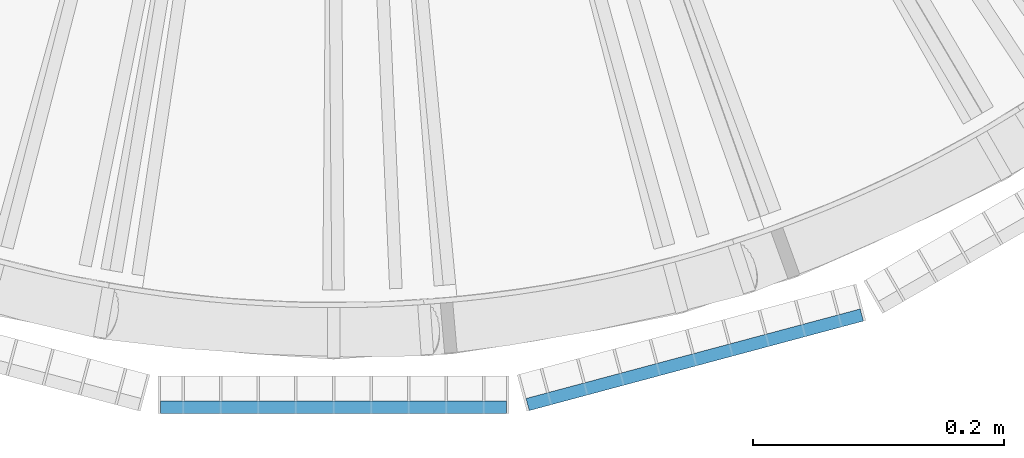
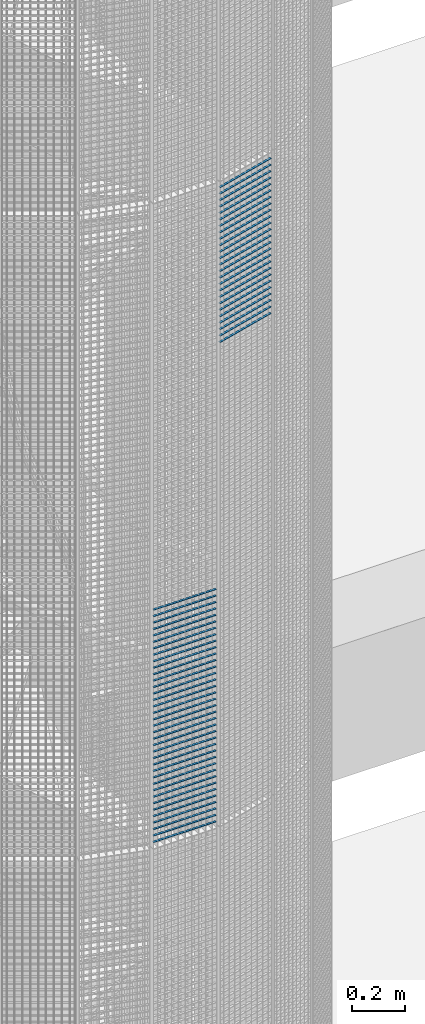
# One storey, part 398 of 1183: 62 beams, 2 elements without a shape of their own.
"""IFC2X3 building model written with IfcOpenShell, lengths in millimetres."""

from ifc_helpers import new_model, si_unit, frame, origin_with_axes, origin_2d_with_axis, place, context, subcontext, project, spatial, rectangle, extrude, material, type_object, element, aggregate, save


model = new_model("IFC2X3")

# Units and contexts
model_context = context("Model", 3, precision=1e-05, world=origin_with_axes())
body_context = subcontext(model_context, "Body", "Model", "MODEL_VIEW")
ifc_project = project(units=[si_unit("LENGTHUNIT", "METRE", prefix="MILLI"), si_unit("AREAUNIT", "SQUARE_METRE"), si_unit("VOLUMEUNIT", "CUBIC_METRE"), si_unit("MASSUNIT", "GRAM", prefix="KILO"), si_unit("TIMEUNIT", "SECOND"), si_unit("PLANEANGLEUNIT", "RADIAN"), si_unit("SOLIDANGLEUNIT", "STERADIAN"), si_unit("THERMODYNAMICTEMPERATUREUNIT", "DEGREE_CELSIUS"), si_unit("LUMINOUSINTENSITYUNIT", "LUMEN")], contexts=[model_context])

# Site, building, storey
site_placement = place(None, origin_with_axes())
site = spatial("IfcSite", under=ifc_project, at=site_placement, Name="Undefined", CompositionType="ELEMENT")
building_placement = place(site_placement, origin_with_axes())
building = spatial("IfcBuilding", under=site, at=building_placement, Name="Undefined", CompositionType="ELEMENT")
storey_placement = place(building_placement, origin_with_axes())
storey = spatial("IfcBuildingStorey", under=building, at=storey_placement, Name="Undefined", CompositionType="ELEMENT", Elevation=0.0)

# Assembly, beams
assembly_1_placement = place(storey_placement, origin_with_axes())
assembly_1 = element("IfcElementAssembly", 1, at=assembly_1_placement, inside=storey, Name="BORDURE", AssemblyPlace="NOTDEFINED", PredefinedType="NOTDEFINED")
ifc_material = material(Name="STEEL/S235JR")
beam_type = type_object("IfcBeamType", Name="PL2*10", PredefinedType="NOTDEFINED")
beam_1_placement = place(assembly_1_placement, frame((21737.9960033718, -1113.47999999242, 12720.0), z_axis=(0.0, -1.0, 0.0), x_axis=(-1.0, 0.0, 0.0)))
beam_1 = element("IfcBeam", 2, at=beam_1_placement, type_object=beam_type, material=ifc_material, Name="ENTRETOISE", context=body_context, shape_type="SweptSolid", body=[
    extrude(rectangle(XDim=2.0, YDim=10.0, at=origin_2d_with_axis()), frame((275.999999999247, 9.09494701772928e-13, 1.53210777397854e-14), z_axis=(-1.0, 0.0, 0.0), x_axis=(0.0, -1.0, 0.0)), (0.0, 0.0, 1.0), 276.0),
])
beam_2_placement = place(assembly_1_placement, frame((21737.9960033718, -1113.47999999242, 12690.0), z_axis=(0.0, -1.0, 0.0), x_axis=(-1.0, 0.0, 0.0)))
beam_2 = element("IfcBeam", 3, at=beam_2_placement, type_object=beam_type, material=ifc_material, Name="ENTRETOISE", context=body_context, shape_type="SweptSolid", body=[
    extrude(rectangle(XDim=2.0, YDim=10.0, at=origin_2d_with_axis()), frame((275.999999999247, 9.09494701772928e-13, 1.53210777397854e-14), z_axis=(-1.0, 0.0, 0.0), x_axis=(0.0, -1.0, 0.0)), (0.0, 0.0, 1.0), 276.0),
])
beam_3_placement = place(assembly_1_placement, frame((21737.9960033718, -1113.47999999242, 12750.0), z_axis=(0.0, -1.0, 0.0), x_axis=(-1.0, 0.0, 0.0)))
beam_3 = element("IfcBeam", 4, at=beam_3_placement, type_object=beam_type, material=ifc_material, Name="ENTRETOISE", context=body_context, shape_type="SweptSolid", body=[
    extrude(rectangle(XDim=2.0, YDim=10.0, at=origin_2d_with_axis()), frame((275.999999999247, 9.09494701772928e-13, 1.53210777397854e-14), z_axis=(-1.0, 0.0, 0.0), x_axis=(0.0, -1.0, 0.0)), (0.0, 0.0, 1.0), 276.0),
])
beam_4_placement = place(assembly_1_placement, frame((21737.9960033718, -1113.47999999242, 12660.0), z_axis=(0.0, -1.0, 0.0), x_axis=(-1.0, 0.0, 0.0)))
beam_4 = element("IfcBeam", 5, at=beam_4_placement, type_object=beam_type, material=ifc_material, Name="ENTRETOISE", context=body_context, shape_type="SweptSolid", body=[
    extrude(rectangle(XDim=2.0, YDim=10.0, at=origin_2d_with_axis()), frame((275.999999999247, 9.09494701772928e-13, 1.53210777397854e-14), z_axis=(-1.0, 0.0, 0.0), x_axis=(0.0, -1.0, 0.0)), (0.0, 0.0, 1.0), 276.0),
])
beam_5_placement = place(assembly_1_placement, frame((21737.9960033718, -1113.47999999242, 12630.0), z_axis=(0.0, -1.0, 0.0), x_axis=(-1.0, 0.0, 0.0)))
beam_5 = element("IfcBeam", 6, at=beam_5_placement, type_object=beam_type, material=ifc_material, Name="ENTRETOISE", context=body_context, shape_type="SweptSolid", body=[
    extrude(rectangle(XDim=2.0, YDim=10.0, at=origin_2d_with_axis()), frame((275.999999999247, 9.09494701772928e-13, 1.53210777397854e-14), z_axis=(-1.0, 0.0, 0.0), x_axis=(0.0, -1.0, 0.0)), (0.0, 0.0, 1.0), 276.0),
])
beam_6_placement = place(assembly_1_placement, frame((21737.9960033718, -1113.47999999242, 12780.0), z_axis=(0.0, -1.0, 0.0), x_axis=(-1.0, 0.0, 0.0)))
beam_6 = element("IfcBeam", 7, at=beam_6_placement, type_object=beam_type, material=ifc_material, Name="ENTRETOISE", context=body_context, shape_type="SweptSolid", body=[
    extrude(rectangle(XDim=2.0, YDim=10.0, at=origin_2d_with_axis()), frame((275.999999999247, 9.09494701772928e-13, 1.53210777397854e-14), z_axis=(-1.0, 0.0, 0.0), x_axis=(0.0, -1.0, 0.0)), (0.0, 0.0, 1.0), 276.0),
])
beam_7_placement = place(assembly_1_placement, frame((21737.9960033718, -1113.47999999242, 12600.0), z_axis=(0.0, -1.0, 0.0), x_axis=(-1.0, 0.0, 0.0)))
beam_7 = element("IfcBeam", 8, at=beam_7_placement, type_object=beam_type, material=ifc_material, Name="ENTRETOISE", context=body_context, shape_type="SweptSolid", body=[
    extrude(rectangle(XDim=2.0, YDim=10.0, at=origin_2d_with_axis()), frame((275.999999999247, 9.09494701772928e-13, 1.53210777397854e-14), z_axis=(-1.0, 0.0, 0.0), x_axis=(0.0, -1.0, 0.0)), (0.0, 0.0, 1.0), 276.0),
])
beam_8_placement = place(assembly_1_placement, frame((21737.9960033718, -1113.47999999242, 12810.0), z_axis=(0.0, -1.0, 0.0), x_axis=(-1.0, 0.0, 0.0)))
beam_8 = element("IfcBeam", 9, at=beam_8_placement, type_object=beam_type, material=ifc_material, Name="ENTRETOISE", context=body_context, shape_type="SweptSolid", body=[
    extrude(rectangle(XDim=2.0, YDim=10.0, at=origin_2d_with_axis()), frame((275.999999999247, 9.09494701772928e-13, 1.53210777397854e-14), z_axis=(-1.0, 0.0, 0.0), x_axis=(0.0, -1.0, 0.0)), (0.0, 0.0, 1.0), 276.0),
])
beam_9_placement = place(assembly_1_placement, frame((21737.9960033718, -1113.47999999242, 12570.0), z_axis=(0.0, -1.0, 0.0), x_axis=(-1.0, 0.0, 0.0)))
beam_9 = element("IfcBeam", 10, at=beam_9_placement, type_object=beam_type, material=ifc_material, Name="ENTRETOISE", context=body_context, shape_type="SweptSolid", body=[
    extrude(rectangle(XDim=2.0, YDim=10.0, at=origin_2d_with_axis()), frame((275.999999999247, 9.09494701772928e-13, 1.53210777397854e-14), z_axis=(-1.0, 0.0, 0.0), x_axis=(0.0, -1.0, 0.0)), (0.0, 0.0, 1.0), 276.0),
])
beam_10_placement = place(assembly_1_placement, frame((21737.9960033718, -1113.47999999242, 12540.0), z_axis=(0.0, -1.0, 0.0), x_axis=(-1.0, 0.0, 0.0)))
beam_10 = element("IfcBeam", 11, at=beam_10_placement, type_object=beam_type, material=ifc_material, Name="ENTRETOISE", context=body_context, shape_type="SweptSolid", body=[
    extrude(rectangle(XDim=2.0, YDim=10.0, at=origin_2d_with_axis()), frame((275.999999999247, 9.09494701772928e-13, 1.53210777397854e-14), z_axis=(-1.0, 0.0, 0.0), x_axis=(0.0, -1.0, 0.0)), (0.0, 0.0, 1.0), 276.0),
])
beam_11_placement = place(assembly_1_placement, frame((21737.9960033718, -1113.47999999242, 12840.0), z_axis=(0.0, -1.0, 0.0), x_axis=(-1.0, 0.0, 0.0)))
beam_11 = element("IfcBeam", 12, at=beam_11_placement, type_object=beam_type, material=ifc_material, Name="ENTRETOISE", context=body_context, shape_type="SweptSolid", body=[
    extrude(rectangle(XDim=2.0, YDim=10.0, at=origin_2d_with_axis()), frame((275.999999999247, 9.09494701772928e-13, 1.53210777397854e-14), z_axis=(-1.0, 0.0, 0.0), x_axis=(0.0, -1.0, 0.0)), (0.0, 0.0, 1.0), 276.0),
])
beam_12_placement = place(assembly_1_placement, frame((21737.9960033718, -1113.47999999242, 12510.0), z_axis=(0.0, -1.0, 0.0), x_axis=(-1.0, 0.0, 0.0)))
beam_12 = element("IfcBeam", 13, at=beam_12_placement, type_object=beam_type, material=ifc_material, Name="ENTRETOISE", context=body_context, shape_type="SweptSolid", body=[
    extrude(rectangle(XDim=2.0, YDim=10.0, at=origin_2d_with_axis()), frame((275.999999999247, 9.09494701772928e-13, 1.53210777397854e-14), z_axis=(-1.0, 0.0, 0.0), x_axis=(0.0, -1.0, 0.0)), (0.0, 0.0, 1.0), 276.0),
])
beam_13_placement = place(assembly_1_placement, frame((21737.9960033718, -1113.47999999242, 12480.0), z_axis=(0.0, -1.0, 0.0), x_axis=(-1.0, 0.0, 0.0)))
beam_13 = element("IfcBeam", 14, at=beam_13_placement, type_object=beam_type, material=ifc_material, Name="ENTRETOISE", context=body_context, shape_type="SweptSolid", body=[
    extrude(rectangle(XDim=2.0, YDim=10.0, at=origin_2d_with_axis()), frame((275.999999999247, 9.09494701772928e-13, 1.53210777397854e-14), z_axis=(-1.0, 0.0, 0.0), x_axis=(0.0, -1.0, 0.0)), (0.0, 0.0, 1.0), 276.0),
])
beam_14_placement = place(assembly_1_placement, frame((21737.9960033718, -1113.47999999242, 12870.0), z_axis=(0.0, -1.0, 0.0), x_axis=(-1.0, 0.0, 0.0)))
beam_14 = element("IfcBeam", 15, at=beam_14_placement, type_object=beam_type, material=ifc_material, Name="ENTRETOISE", context=body_context, shape_type="SweptSolid", body=[
    extrude(rectangle(XDim=2.0, YDim=10.0, at=origin_2d_with_axis()), frame((275.999999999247, 9.09494701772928e-13, 1.53210777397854e-14), z_axis=(-1.0, 0.0, 0.0), x_axis=(0.0, -1.0, 0.0)), (0.0, 0.0, 1.0), 276.0),
])
beam_15_placement = place(assembly_1_placement, frame((21737.9960033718, -1113.47999999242, 12450.0), z_axis=(0.0, -1.0, 0.0), x_axis=(-1.0, 0.0, 0.0)))
beam_15 = element("IfcBeam", 16, at=beam_15_placement, type_object=beam_type, material=ifc_material, Name="ENTRETOISE", context=body_context, shape_type="SweptSolid", body=[
    extrude(rectangle(XDim=2.0, YDim=10.0, at=origin_2d_with_axis()), frame((275.999999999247, 9.09494701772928e-13, 1.53210777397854e-14), z_axis=(-1.0, 0.0, 0.0), x_axis=(0.0, -1.0, 0.0)), (0.0, 0.0, 1.0), 276.0),
])
beam_16_placement = place(assembly_1_placement, frame((21737.9960033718, -1113.47999999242, 12420.0), z_axis=(0.0, -1.0, 0.0), x_axis=(-1.0, 0.0, 0.0)))
beam_16 = element("IfcBeam", 17, at=beam_16_placement, type_object=beam_type, material=ifc_material, Name="ENTRETOISE", context=body_context, shape_type="SweptSolid", body=[
    extrude(rectangle(XDim=2.0, YDim=10.0, at=origin_2d_with_axis()), frame((275.999999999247, 9.09494701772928e-13, 1.53210777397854e-14), z_axis=(-1.0, 0.0, 0.0), x_axis=(0.0, -1.0, 0.0)), (0.0, 0.0, 1.0), 276.0),
])
beam_17_placement = place(assembly_1_placement, frame((21737.9960033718, -1113.47999999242, 12900.0), z_axis=(0.0, -1.0, 0.0), x_axis=(-1.0, 0.0, 0.0)))
beam_17 = element("IfcBeam", 18, at=beam_17_placement, type_object=beam_type, material=ifc_material, Name="ENTRETOISE", context=body_context, shape_type="SweptSolid", body=[
    extrude(rectangle(XDim=2.0, YDim=10.0, at=origin_2d_with_axis()), frame((275.999999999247, 9.09494701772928e-13, 1.53210777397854e-14), z_axis=(-1.0, 0.0, 0.0), x_axis=(0.0, -1.0, 0.0)), (0.0, 0.0, 1.0), 276.0),
])
beam_18_placement = place(assembly_1_placement, frame((21737.9960033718, -1113.47999999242, 12390.0), z_axis=(0.0, -1.0, 0.0), x_axis=(-1.0, 0.0, 0.0)))
beam_18 = element("IfcBeam", 19, at=beam_18_placement, type_object=beam_type, material=ifc_material, Name="ENTRETOISE", context=body_context, shape_type="SweptSolid", body=[
    extrude(rectangle(XDim=2.0, YDim=10.0, at=origin_2d_with_axis()), frame((275.999999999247, 9.09494701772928e-13, 1.53210777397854e-14), z_axis=(-1.0, 0.0, 0.0), x_axis=(0.0, -1.0, 0.0)), (0.0, 0.0, 1.0), 276.0),
])
beam_19_placement = place(assembly_1_placement, frame((21737.9960033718, -1113.47999999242, 12930.0), z_axis=(0.0, -1.0, 0.0), x_axis=(-1.0, 0.0, 0.0)))
beam_19 = element("IfcBeam", 20, at=beam_19_placement, type_object=beam_type, material=ifc_material, Name="ENTRETOISE", context=body_context, shape_type="SweptSolid", body=[
    extrude(rectangle(XDim=2.0, YDim=10.0, at=origin_2d_with_axis()), frame((275.999999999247, 9.09494701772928e-13, 1.53210777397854e-14), z_axis=(-1.0, 0.0, 0.0), x_axis=(0.0, -1.0, 0.0)), (0.0, 0.0, 1.0), 276.0),
])
beam_20_placement = place(assembly_1_placement, frame((21737.9960033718, -1113.47999999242, 12360.0), z_axis=(0.0, -1.0, 0.0), x_axis=(-1.0, 0.0, 0.0)))
beam_20 = element("IfcBeam", 21, at=beam_20_placement, type_object=beam_type, material=ifc_material, Name="ENTRETOISE", context=body_context, shape_type="SweptSolid", body=[
    extrude(rectangle(XDim=2.0, YDim=10.0, at=origin_2d_with_axis()), frame((275.999999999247, 9.09494701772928e-13, 1.53210777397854e-14), z_axis=(-1.0, 0.0, 0.0), x_axis=(0.0, -1.0, 0.0)), (0.0, 0.0, 1.0), 276.0),
])
beam_21_placement = place(assembly_1_placement, frame((21737.9960033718, -1113.47999999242, 12330.0), z_axis=(0.0, -1.0, 0.0), x_axis=(-1.0, 0.0, 0.0)))
beam_21 = element("IfcBeam", 22, at=beam_21_placement, type_object=beam_type, material=ifc_material, Name="ENTRETOISE", context=body_context, shape_type="SweptSolid", body=[
    extrude(rectangle(XDim=2.0, YDim=10.0, at=origin_2d_with_axis()), frame((275.999999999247, 9.09494701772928e-13, 1.53210777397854e-14), z_axis=(-1.0, 0.0, 0.0), x_axis=(0.0, -1.0, 0.0)), (0.0, 0.0, 1.0), 276.0),
])
beam_22_placement = place(assembly_1_placement, frame((21737.9960033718, -1113.47999999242, 12960.0), z_axis=(0.0, -1.0, 0.0), x_axis=(-1.0, 0.0, 0.0)))
beam_22 = element("IfcBeam", 23, at=beam_22_placement, type_object=beam_type, material=ifc_material, Name="ENTRETOISE", context=body_context, shape_type="SweptSolid", body=[
    extrude(rectangle(XDim=2.0, YDim=10.0, at=origin_2d_with_axis()), frame((275.999999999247, 9.09494701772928e-13, 1.53210777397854e-14), z_axis=(-1.0, 0.0, 0.0), x_axis=(0.0, -1.0, 0.0)), (0.0, 0.0, 1.0), 276.0),
])
beam_23_placement = place(assembly_1_placement, frame((21737.9960033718, -1113.47999999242, 12300.0), z_axis=(0.0, -1.0, 0.0), x_axis=(-1.0, 0.0, 0.0)))
beam_23 = element("IfcBeam", 24, at=beam_23_placement, type_object=beam_type, material=ifc_material, Name="ENTRETOISE", context=body_context, shape_type="SweptSolid", body=[
    extrude(rectangle(XDim=2.0, YDim=10.0, at=origin_2d_with_axis()), frame((275.999999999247, 9.09494701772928e-13, 1.53210777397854e-14), z_axis=(-1.0, 0.0, 0.0), x_axis=(0.0, -1.0, 0.0)), (0.0, 0.0, 1.0), 276.0),
])
beam_24_placement = place(assembly_1_placement, frame((21737.9960033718, -1113.47999999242, 12270.0), z_axis=(0.0, -1.0, 0.0), x_axis=(-1.0, 0.0, 0.0)))
beam_24 = element("IfcBeam", 25, at=beam_24_placement, type_object=beam_type, material=ifc_material, Name="ENTRETOISE", context=body_context, shape_type="SweptSolid", body=[
    extrude(rectangle(XDim=2.0, YDim=10.0, at=origin_2d_with_axis()), frame((275.999999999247, 9.09494701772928e-13, 1.53210777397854e-14), z_axis=(-1.0, 0.0, 0.0), x_axis=(0.0, -1.0, 0.0)), (0.0, 0.0, 1.0), 276.0),
])
beam_25_placement = place(assembly_1_placement, frame((21737.9960033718, -1113.47999999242, 12990.0), z_axis=(0.0, -1.0, 0.0), x_axis=(-1.0, 0.0, 0.0)))
beam_25 = element("IfcBeam", 26, at=beam_25_placement, type_object=beam_type, material=ifc_material, Name="ENTRETOISE", context=body_context, shape_type="SweptSolid", body=[
    extrude(rectangle(XDim=2.0, YDim=10.0, at=origin_2d_with_axis()), frame((275.999999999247, 9.09494701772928e-13, 1.53210777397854e-14), z_axis=(-1.0, 0.0, 0.0), x_axis=(0.0, -1.0, 0.0)), (0.0, 0.0, 1.0), 276.0),
])
beam_26_placement = place(assembly_1_placement, frame((21737.9960033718, -1113.47999999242, 12240.0), z_axis=(0.0, -1.0, 0.0), x_axis=(-1.0, 0.0, 0.0)))
beam_26 = element("IfcBeam", 27, at=beam_26_placement, type_object=beam_type, material=ifc_material, Name="ENTRETOISE", context=body_context, shape_type="SweptSolid", body=[
    extrude(rectangle(XDim=2.0, YDim=10.0, at=origin_2d_with_axis()), frame((275.999999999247, 9.09494701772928e-13, 1.53210777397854e-14), z_axis=(-1.0, 0.0, 0.0), x_axis=(0.0, -1.0, 0.0)), (0.0, 0.0, 1.0), 276.0),
])
beam_27_placement = place(assembly_1_placement, frame((21737.9960033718, -1113.47999999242, 13020.0), z_axis=(0.0, -1.0, 0.0), x_axis=(-1.0, 0.0, 0.0)))
beam_27 = element("IfcBeam", 28, at=beam_27_placement, type_object=beam_type, material=ifc_material, Name="ENTRETOISE", context=body_context, shape_type="SweptSolid", body=[
    extrude(rectangle(XDim=2.0, YDim=10.0, at=origin_2d_with_axis()), frame((275.999999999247, 9.09494701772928e-13, 1.53210777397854e-14), z_axis=(-1.0, 0.0, 0.0), x_axis=(0.0, -1.0, 0.0)), (0.0, 0.0, 1.0), 276.0),
])
beam_28_placement = place(assembly_1_placement, frame((21737.9960033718, -1113.47999999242, 12210.0), z_axis=(0.0, -1.0, 0.0), x_axis=(-1.0, 0.0, 0.0)))
beam_28 = element("IfcBeam", 29, at=beam_28_placement, type_object=beam_type, material=ifc_material, Name="ENTRETOISE", context=body_context, shape_type="SweptSolid", body=[
    extrude(rectangle(XDim=2.0, YDim=10.0, at=origin_2d_with_axis()), frame((275.999999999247, 9.09494701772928e-13, 1.53210777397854e-14), z_axis=(-1.0, 0.0, 0.0), x_axis=(0.0, -1.0, 0.0)), (0.0, 0.0, 1.0), 276.0),
])
beam_29_placement = place(assembly_1_placement, frame((21737.9960033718, -1113.47999999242, 12180.0), z_axis=(0.0, -1.0, 0.0), x_axis=(-1.0, 0.0, 0.0)))
beam_29 = element("IfcBeam", 30, at=beam_29_placement, type_object=beam_type, material=ifc_material, Name="ENTRETOISE", context=body_context, shape_type="SweptSolid", body=[
    extrude(rectangle(XDim=2.0, YDim=10.0, at=origin_2d_with_axis()), frame((275.999999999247, 9.09494701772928e-13, 1.53210777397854e-14), z_axis=(-1.0, 0.0, 0.0), x_axis=(0.0, -1.0, 0.0)), (0.0, 0.0, 1.0), 276.0),
])
beam_30_placement = place(assembly_1_placement, frame((21737.9960033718, -1113.47999999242, 13050.0), z_axis=(0.0, -1.0, 0.0), x_axis=(-1.0, 0.0, 0.0)))
beam_30 = element("IfcBeam", 31, at=beam_30_placement, type_object=beam_type, material=ifc_material, Name="ENTRETOISE", context=body_context, shape_type="SweptSolid", body=[
    extrude(rectangle(XDim=2.0, YDim=10.0, at=origin_2d_with_axis()), frame((275.999999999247, 9.09494701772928e-13, 1.53210777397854e-14), z_axis=(-1.0, 0.0, 0.0), x_axis=(0.0, -1.0, 0.0)), (0.0, 0.0, 1.0), 276.0),
])
beam_31_placement = place(assembly_1_placement, frame((21737.9960033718, -1113.47999999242, 12150.0), z_axis=(0.0, -1.0, 0.0), x_axis=(-1.0, 0.0, 0.0)))
beam_31 = element("IfcBeam", 32, at=beam_31_placement, type_object=beam_type, material=ifc_material, Name="ENTRETOISE", context=body_context, shape_type="SweptSolid", body=[
    extrude(rectangle(XDim=2.0, YDim=10.0, at=origin_2d_with_axis()), frame((275.999999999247, 9.09494701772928e-13, 1.53210777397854e-14), z_axis=(-1.0, 0.0, 0.0), x_axis=(0.0, -1.0, 0.0)), (0.0, 0.0, 1.0), 276.0),
])
beam_32_placement = place(assembly_1_placement, frame((21737.9960033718, -1113.47999999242, 12120.0), z_axis=(0.0, -1.0, 0.0), x_axis=(-1.0, 0.0, 0.0)))
beam_32 = element("IfcBeam", 33, at=beam_32_placement, type_object=beam_type, material=ifc_material, Name="ENTRETOISE", context=body_context, shape_type="SweptSolid", body=[
    extrude(rectangle(XDim=2.0, YDim=10.0, at=origin_2d_with_axis()), frame((275.999999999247, 9.09494701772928e-13, 1.53210777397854e-14), z_axis=(-1.0, 0.0, 0.0), x_axis=(0.0, -1.0, 0.0)), (0.0, 0.0, 1.0), 276.0),
])
beam_33_placement = place(assembly_1_placement, frame((21737.9960033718, -1113.47999999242, 13080.0), z_axis=(0.0, -1.0, 0.0), x_axis=(-1.0, 0.0, 0.0)))
beam_33 = element("IfcBeam", 34, at=beam_33_placement, type_object=beam_type, material=ifc_material, Name="ENTRETOISE", context=body_context, shape_type="SweptSolid", body=[
    extrude(rectangle(XDim=2.0, YDim=10.0, at=origin_2d_with_axis()), frame((275.999999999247, 9.09494701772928e-13, 1.53210777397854e-14), z_axis=(-1.0, 0.0, 0.0), x_axis=(0.0, -1.0, 0.0)), (0.0, 0.0, 1.0), 276.0),
])
beam_34_placement = place(assembly_1_placement, frame((21737.9960033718, -1113.47999999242, 12090.0), z_axis=(0.0, -1.0, 0.0), x_axis=(-1.0, 0.0, 0.0)))
beam_34 = element("IfcBeam", 35, at=beam_34_placement, type_object=beam_type, material=ifc_material, Name="ENTRETOISE", context=body_context, shape_type="SweptSolid", body=[
    extrude(rectangle(XDim=2.0, YDim=10.0, at=origin_2d_with_axis()), frame((275.999999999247, 9.09494701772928e-13, 1.53210777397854e-14), z_axis=(-1.0, 0.0, 0.0), x_axis=(0.0, -1.0, 0.0)), (0.0, 0.0, 1.0), 276.0),
])
beam_35_placement = place(assembly_1_placement, frame((21737.9960033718, -1113.47999999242, 12060.0), z_axis=(0.0, -1.0, 0.0), x_axis=(-1.0, 0.0, 0.0)))
beam_35 = element("IfcBeam", 36, at=beam_35_placement, type_object=beam_type, material=ifc_material, Name="ENTRETOISE", context=body_context, shape_type="SweptSolid", body=[
    extrude(rectangle(XDim=2.0, YDim=10.0, at=origin_2d_with_axis()), frame((275.999999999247, 9.09494701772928e-13, 1.53210777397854e-14), z_axis=(-1.0, 0.0, 0.0), x_axis=(0.0, -1.0, 0.0)), (0.0, 0.0, 1.0), 276.0),
])
beam_36_placement = place(assembly_1_placement, frame((21737.9960033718, -1113.47999999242, 13110.0), z_axis=(0.0, -1.0, 0.0), x_axis=(-1.0, 0.0, 0.0)))
beam_36 = element("IfcBeam", 37, at=beam_36_placement, type_object=beam_type, material=ifc_material, Name="ENTRETOISE", context=body_context, shape_type="SweptSolid", body=[
    extrude(rectangle(XDim=2.0, YDim=10.0, at=origin_2d_with_axis()), frame((275.999999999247, 9.09494701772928e-13, 1.53210777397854e-14), z_axis=(-1.0, 0.0, 0.0), x_axis=(0.0, -1.0, 0.0)), (0.0, 0.0, 1.0), 276.0),
])
beam_37_placement = place(assembly_1_placement, frame((21737.9960033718, -1113.47999999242, 12030.0), z_axis=(0.0, -1.0, 0.0), x_axis=(-1.0, 0.0, 0.0)))
beam_37 = element("IfcBeam", 38, at=beam_37_placement, type_object=beam_type, material=ifc_material, Name="ENTRETOISE", context=body_context, shape_type="SweptSolid", body=[
    extrude(rectangle(XDim=2.0, YDim=10.0, at=origin_2d_with_axis()), frame((275.999999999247, 9.09494701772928e-13, 1.53210777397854e-14), z_axis=(-1.0, 0.0, 0.0), x_axis=(0.0, -1.0, 0.0)), (0.0, 0.0, 1.0), 276.0),
])
aggregate(assembly_1, [beam_1, beam_2, beam_3, beam_4, beam_5, beam_6, beam_7, beam_8, beam_9, beam_10, beam_11, beam_12, beam_13, beam_14, beam_15, beam_16, beam_17, beam_18, beam_19, beam_20, beam_21, beam_22, beam_23, beam_24, beam_25, beam_26, beam_27, beam_28, beam_29, beam_30, beam_31, beam_32, beam_33, beam_34, beam_35, beam_36, beam_37])

assembly_2_placement = place(storey_placement, origin_with_axes())
assembly_2 = element("IfcElementAssembly", 39, at=assembly_2_placement, inside=storey, Name="BORDURE", AssemblyPlace="NOTDEFINED", PredefinedType="NOTDEFINED")
beam_38_placement = place(assembly_2_placement, frame((22021.4837339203, -1039.82309522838, 14970.0), z_axis=(0.258819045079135, -0.965925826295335, 0.0), x_axis=(-0.965925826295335, -0.258819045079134, 0.0)))
beam_38 = element("IfcBeam", 40, at=beam_38_placement, type_object=beam_type, material=ifc_material, Name="ENTRETOISE", context=body_context, shape_type="SweptSolid", body=[
    extrude(rectangle(XDim=2.0, YDim=10.0, at=origin_2d_with_axis()), frame((275.999999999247, 9.09494701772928e-13, 1.53210777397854e-14), z_axis=(-1.0, 0.0, 0.0), x_axis=(0.0, -1.0, 0.0)), (0.0, 0.0, 1.0), 276.0),
])
beam_39_placement = place(assembly_2_placement, frame((22021.4837339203, -1039.82309522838, 14940.0), z_axis=(0.258819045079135, -0.965925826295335, 0.0), x_axis=(-0.965925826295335, -0.258819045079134, 0.0)))
beam_39 = element("IfcBeam", 41, at=beam_39_placement, type_object=beam_type, material=ifc_material, Name="ENTRETOISE", context=body_context, shape_type="SweptSolid", body=[
    extrude(rectangle(XDim=2.0, YDim=10.0, at=origin_2d_with_axis()), frame((275.999999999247, 9.09494701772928e-13, 1.53210777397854e-14), z_axis=(-1.0, 0.0, 0.0), x_axis=(0.0, -1.0, 0.0)), (0.0, 0.0, 1.0), 276.0),
])
beam_40_placement = place(assembly_2_placement, frame((22021.4837339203, -1039.82309522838, 14910.0), z_axis=(0.258819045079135, -0.965925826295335, 0.0), x_axis=(-0.965925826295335, -0.258819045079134, 0.0)))
beam_40 = element("IfcBeam", 42, at=beam_40_placement, type_object=beam_type, material=ifc_material, Name="ENTRETOISE", context=body_context, shape_type="SweptSolid", body=[
    extrude(rectangle(XDim=2.0, YDim=10.0, at=origin_2d_with_axis()), frame((275.999999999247, 9.09494701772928e-13, 1.53210777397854e-14), z_axis=(-1.0, 0.0, 0.0), x_axis=(0.0, -1.0, 0.0)), (0.0, 0.0, 1.0), 276.0),
])
beam_41_placement = place(assembly_2_placement, frame((22021.4837339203, -1039.82309522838, 14880.0), z_axis=(0.258819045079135, -0.965925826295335, 0.0), x_axis=(-0.965925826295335, -0.258819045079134, 0.0)))
beam_41 = element("IfcBeam", 43, at=beam_41_placement, type_object=beam_type, material=ifc_material, Name="ENTRETOISE", context=body_context, shape_type="SweptSolid", body=[
    extrude(rectangle(XDim=2.0, YDim=10.0, at=origin_2d_with_axis()), frame((275.999999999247, 9.09494701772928e-13, 1.53210777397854e-14), z_axis=(-1.0, 0.0, 0.0), x_axis=(0.0, -1.0, 0.0)), (0.0, 0.0, 1.0), 276.0),
])
beam_42_placement = place(assembly_2_placement, frame((22021.4837339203, -1039.82309522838, 14850.0), z_axis=(0.258819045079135, -0.965925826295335, 0.0), x_axis=(-0.965925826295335, -0.258819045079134, 0.0)))
beam_42 = element("IfcBeam", 44, at=beam_42_placement, type_object=beam_type, material=ifc_material, Name="ENTRETOISE", context=body_context, shape_type="SweptSolid", body=[
    extrude(rectangle(XDim=2.0, YDim=10.0, at=origin_2d_with_axis()), frame((275.999999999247, 9.09494701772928e-13, 1.53210777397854e-14), z_axis=(-1.0, 0.0, 0.0), x_axis=(0.0, -1.0, 0.0)), (0.0, 0.0, 1.0), 276.0),
])
beam_43_placement = place(assembly_2_placement, frame((22021.4837339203, -1039.82309522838, 14820.0), z_axis=(0.258819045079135, -0.965925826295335, 0.0), x_axis=(-0.965925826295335, -0.258819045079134, 0.0)))
beam_43 = element("IfcBeam", 45, at=beam_43_placement, type_object=beam_type, material=ifc_material, Name="ENTRETOISE", context=body_context, shape_type="SweptSolid", body=[
    extrude(rectangle(XDim=2.0, YDim=10.0, at=origin_2d_with_axis()), frame((275.999999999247, 9.09494701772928e-13, 1.53210777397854e-14), z_axis=(-1.0, 0.0, 0.0), x_axis=(0.0, -1.0, 0.0)), (0.0, 0.0, 1.0), 276.0),
])
beam_44_placement = place(assembly_2_placement, frame((22021.4837339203, -1039.82309522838, 14790.0), z_axis=(0.258819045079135, -0.965925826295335, 0.0), x_axis=(-0.965925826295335, -0.258819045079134, 0.0)))
beam_44 = element("IfcBeam", 46, at=beam_44_placement, type_object=beam_type, material=ifc_material, Name="ENTRETOISE", context=body_context, shape_type="SweptSolid", body=[
    extrude(rectangle(XDim=2.0, YDim=10.0, at=origin_2d_with_axis()), frame((275.999999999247, 9.09494701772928e-13, 1.53210777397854e-14), z_axis=(-1.0, 0.0, 0.0), x_axis=(0.0, -1.0, 0.0)), (0.0, 0.0, 1.0), 276.0),
])
beam_45_placement = place(assembly_2_placement, frame((22021.4837339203, -1039.82309522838, 14760.0), z_axis=(0.258819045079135, -0.965925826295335, 0.0), x_axis=(-0.965925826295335, -0.258819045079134, 0.0)))
beam_45 = element("IfcBeam", 47, at=beam_45_placement, type_object=beam_type, material=ifc_material, Name="ENTRETOISE", context=body_context, shape_type="SweptSolid", body=[
    extrude(rectangle(XDim=2.0, YDim=10.0, at=origin_2d_with_axis()), frame((275.999999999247, 9.09494701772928e-13, 1.53210777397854e-14), z_axis=(-1.0, 0.0, 0.0), x_axis=(0.0, -1.0, 0.0)), (0.0, 0.0, 1.0), 276.0),
])
beam_46_placement = place(assembly_2_placement, frame((22021.4837339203, -1039.82309522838, 14730.0), z_axis=(0.258819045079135, -0.965925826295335, 0.0), x_axis=(-0.965925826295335, -0.258819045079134, 0.0)))
beam_46 = element("IfcBeam", 48, at=beam_46_placement, type_object=beam_type, material=ifc_material, Name="ENTRETOISE", context=body_context, shape_type="SweptSolid", body=[
    extrude(rectangle(XDim=2.0, YDim=10.0, at=origin_2d_with_axis()), frame((275.999999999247, 9.09494701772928e-13, 1.53210777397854e-14), z_axis=(-1.0, 0.0, 0.0), x_axis=(0.0, -1.0, 0.0)), (0.0, 0.0, 1.0), 276.0),
])
beam_47_placement = place(assembly_2_placement, frame((22021.4837339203, -1039.82309522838, 14700.0), z_axis=(0.258819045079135, -0.965925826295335, 0.0), x_axis=(-0.965925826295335, -0.258819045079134, 0.0)))
beam_47 = element("IfcBeam", 49, at=beam_47_placement, type_object=beam_type, material=ifc_material, Name="ENTRETOISE", context=body_context, shape_type="SweptSolid", body=[
    extrude(rectangle(XDim=2.0, YDim=10.0, at=origin_2d_with_axis()), frame((275.999999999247, 9.09494701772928e-13, 1.53210777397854e-14), z_axis=(-1.0, 0.0, 0.0), x_axis=(0.0, -1.0, 0.0)), (0.0, 0.0, 1.0), 276.0),
])
beam_48_placement = place(assembly_2_placement, frame((22021.4837339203, -1039.82309522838, 14670.0), z_axis=(0.258819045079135, -0.965925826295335, 0.0), x_axis=(-0.965925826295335, -0.258819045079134, 0.0)))
beam_48 = element("IfcBeam", 50, at=beam_48_placement, type_object=beam_type, material=ifc_material, Name="ENTRETOISE", context=body_context, shape_type="SweptSolid", body=[
    extrude(rectangle(XDim=2.0, YDim=10.0, at=origin_2d_with_axis()), frame((275.999999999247, 9.09494701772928e-13, 1.53210777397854e-14), z_axis=(-1.0, 0.0, 0.0), x_axis=(0.0, -1.0, 0.0)), (0.0, 0.0, 1.0), 276.0),
])
beam_49_placement = place(assembly_2_placement, frame((22021.4837339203, -1039.82309522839, 14640.0), z_axis=(0.258819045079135, -0.965925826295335, 0.0), x_axis=(-0.965925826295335, -0.258819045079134, 0.0)))
beam_49 = element("IfcBeam", 51, at=beam_49_placement, type_object=beam_type, material=ifc_material, Name="ENTRETOISE", context=body_context, shape_type="SweptSolid", body=[
    extrude(rectangle(XDim=2.0, YDim=10.0, at=origin_2d_with_axis()), frame((275.999999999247, 9.09494701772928e-13, 1.53210777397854e-14), z_axis=(-1.0, 0.0, 0.0), x_axis=(0.0, -1.0, 0.0)), (0.0, 0.0, 1.0), 276.0),
])
beam_50_placement = place(assembly_2_placement, frame((22021.4837339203, -1039.82309522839, 14610.0), z_axis=(0.258819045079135, -0.965925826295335, 0.0), x_axis=(-0.965925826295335, -0.258819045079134, 0.0)))
beam_50 = element("IfcBeam", 52, at=beam_50_placement, type_object=beam_type, material=ifc_material, Name="ENTRETOISE", context=body_context, shape_type="SweptSolid", body=[
    extrude(rectangle(XDim=2.0, YDim=10.0, at=origin_2d_with_axis()), frame((275.999999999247, 9.09494701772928e-13, 1.53210777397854e-14), z_axis=(-1.0, 0.0, 0.0), x_axis=(0.0, -1.0, 0.0)), (0.0, 0.0, 1.0), 276.0),
])
beam_51_placement = place(assembly_2_placement, frame((22021.4837339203, -1039.82309522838, 14580.0), z_axis=(0.258819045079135, -0.965925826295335, 0.0), x_axis=(-0.965925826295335, -0.258819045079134, 0.0)))
beam_51 = element("IfcBeam", 53, at=beam_51_placement, type_object=beam_type, material=ifc_material, Name="ENTRETOISE", context=body_context, shape_type="SweptSolid", body=[
    extrude(rectangle(XDim=2.0, YDim=10.0, at=origin_2d_with_axis()), frame((275.999999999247, 9.09494701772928e-13, 1.53210777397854e-14), z_axis=(-1.0, 0.0, 0.0), x_axis=(0.0, -1.0, 0.0)), (0.0, 0.0, 1.0), 276.0),
])
beam_52_placement = place(assembly_2_placement, frame((22021.4837339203, -1039.82309522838, 14550.0), z_axis=(0.258819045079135, -0.965925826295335, 0.0), x_axis=(-0.965925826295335, -0.258819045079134, 0.0)))
beam_52 = element("IfcBeam", 54, at=beam_52_placement, type_object=beam_type, material=ifc_material, Name="ENTRETOISE", context=body_context, shape_type="SweptSolid", body=[
    extrude(rectangle(XDim=2.0, YDim=10.0, at=origin_2d_with_axis()), frame((275.999999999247, 9.09494701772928e-13, 1.53210777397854e-14), z_axis=(-1.0, 0.0, 0.0), x_axis=(0.0, -1.0, 0.0)), (0.0, 0.0, 1.0), 276.0),
])
beam_53_placement = place(assembly_2_placement, frame((22021.4837339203, -1039.82309522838, 14520.0), z_axis=(0.258819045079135, -0.965925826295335, 0.0), x_axis=(-0.965925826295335, -0.258819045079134, 0.0)))
beam_53 = element("IfcBeam", 55, at=beam_53_placement, type_object=beam_type, material=ifc_material, Name="ENTRETOISE", context=body_context, shape_type="SweptSolid", body=[
    extrude(rectangle(XDim=2.0, YDim=10.0, at=origin_2d_with_axis()), frame((275.999999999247, 9.09494701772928e-13, 1.53210777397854e-14), z_axis=(-1.0, 0.0, 0.0), x_axis=(0.0, -1.0, 0.0)), (0.0, 0.0, 1.0), 276.0),
])
beam_54_placement = place(assembly_2_placement, frame((22021.4837339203, -1039.82309522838, 14490.0), z_axis=(0.258819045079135, -0.965925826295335, 0.0), x_axis=(-0.965925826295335, -0.258819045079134, 0.0)))
beam_54 = element("IfcBeam", 56, at=beam_54_placement, type_object=beam_type, material=ifc_material, Name="ENTRETOISE", context=body_context, shape_type="SweptSolid", body=[
    extrude(rectangle(XDim=2.0, YDim=10.0, at=origin_2d_with_axis()), frame((275.999999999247, 9.09494701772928e-13, 1.53210777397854e-14), z_axis=(-1.0, 0.0, 0.0), x_axis=(0.0, -1.0, 0.0)), (0.0, 0.0, 1.0), 276.0),
])
beam_55_placement = place(assembly_2_placement, frame((22021.4837339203, -1039.82309522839, 14460.0), z_axis=(0.258819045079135, -0.965925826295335, 0.0), x_axis=(-0.965925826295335, -0.258819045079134, 0.0)))
beam_55 = element("IfcBeam", 57, at=beam_55_placement, type_object=beam_type, material=ifc_material, Name="ENTRETOISE", context=body_context, shape_type="SweptSolid", body=[
    extrude(rectangle(XDim=2.0, YDim=10.0, at=origin_2d_with_axis()), frame((275.999999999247, 9.09494701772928e-13, 1.53210777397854e-14), z_axis=(-1.0, 0.0, 0.0), x_axis=(0.0, -1.0, 0.0)), (0.0, 0.0, 1.0), 276.0),
])
beam_56_placement = place(assembly_2_placement, frame((22021.4837339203, -1039.82309522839, 14430.0), z_axis=(0.258819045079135, -0.965925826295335, 0.0), x_axis=(-0.965925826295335, -0.258819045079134, 0.0)))
beam_56 = element("IfcBeam", 58, at=beam_56_placement, type_object=beam_type, material=ifc_material, Name="ENTRETOISE", context=body_context, shape_type="SweptSolid", body=[
    extrude(rectangle(XDim=2.0, YDim=10.0, at=origin_2d_with_axis()), frame((275.999999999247, 9.09494701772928e-13, 1.53210777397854e-14), z_axis=(-1.0, 0.0, 0.0), x_axis=(0.0, -1.0, 0.0)), (0.0, 0.0, 1.0), 276.0),
])
beam_57_placement = place(assembly_2_placement, frame((22021.4837339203, -1039.82309522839, 14400.0), z_axis=(0.258819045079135, -0.965925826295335, 0.0), x_axis=(-0.965925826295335, -0.258819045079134, 0.0)))
beam_57 = element("IfcBeam", 59, at=beam_57_placement, type_object=beam_type, material=ifc_material, Name="ENTRETOISE", context=body_context, shape_type="SweptSolid", body=[
    extrude(rectangle(XDim=2.0, YDim=10.0, at=origin_2d_with_axis()), frame((275.999999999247, 9.09494701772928e-13, 1.53210777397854e-14), z_axis=(-1.0, 0.0, 0.0), x_axis=(0.0, -1.0, 0.0)), (0.0, 0.0, 1.0), 276.0),
])
beam_58_placement = place(assembly_2_placement, frame((22021.4837339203, -1039.82309522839, 14370.0), z_axis=(0.258819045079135, -0.965925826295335, 0.0), x_axis=(-0.965925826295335, -0.258819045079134, 0.0)))
beam_58 = element("IfcBeam", 60, at=beam_58_placement, type_object=beam_type, material=ifc_material, Name="ENTRETOISE", context=body_context, shape_type="SweptSolid", body=[
    extrude(rectangle(XDim=2.0, YDim=10.0, at=origin_2d_with_axis()), frame((275.999999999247, 9.09494701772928e-13, 1.53210777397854e-14), z_axis=(-1.0, 0.0, 0.0), x_axis=(0.0, -1.0, 0.0)), (0.0, 0.0, 1.0), 276.0),
])
beam_59_placement = place(assembly_2_placement, frame((22021.4837339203, -1039.82309522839, 14340.0), z_axis=(0.258819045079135, -0.965925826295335, 0.0), x_axis=(-0.965925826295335, -0.258819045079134, 0.0)))
beam_59 = element("IfcBeam", 61, at=beam_59_placement, type_object=beam_type, material=ifc_material, Name="ENTRETOISE", context=body_context, shape_type="SweptSolid", body=[
    extrude(rectangle(XDim=2.0, YDim=10.0, at=origin_2d_with_axis()), frame((275.999999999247, 9.09494701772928e-13, 1.53210777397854e-14), z_axis=(-1.0, 0.0, 0.0), x_axis=(0.0, -1.0, 0.0)), (0.0, 0.0, 1.0), 276.0),
])
beam_60_placement = place(assembly_2_placement, frame((22021.4837339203, -1039.82309522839, 14310.0), z_axis=(0.258819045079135, -0.965925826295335, 0.0), x_axis=(-0.965925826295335, -0.258819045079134, 0.0)))
beam_60 = element("IfcBeam", 62, at=beam_60_placement, type_object=beam_type, material=ifc_material, Name="ENTRETOISE", context=body_context, shape_type="SweptSolid", body=[
    extrude(rectangle(XDim=2.0, YDim=10.0, at=origin_2d_with_axis()), frame((275.999999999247, 9.09494701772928e-13, 1.53210777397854e-14), z_axis=(-1.0, 0.0, 0.0), x_axis=(0.0, -1.0, 0.0)), (0.0, 0.0, 1.0), 276.0),
])
beam_61_placement = place(assembly_2_placement, frame((22021.4837339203, -1039.82309522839, 14280.0), z_axis=(0.258819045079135, -0.965925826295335, 0.0), x_axis=(-0.965925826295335, -0.258819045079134, 0.0)))
beam_61 = element("IfcBeam", 63, at=beam_61_placement, type_object=beam_type, material=ifc_material, Name="ENTRETOISE", context=body_context, shape_type="SweptSolid", body=[
    extrude(rectangle(XDim=2.0, YDim=10.0, at=origin_2d_with_axis()), frame((275.999999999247, 9.09494701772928e-13, 1.53210777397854e-14), z_axis=(-1.0, 0.0, 0.0), x_axis=(0.0, -1.0, 0.0)), (0.0, 0.0, 1.0), 276.0),
])
beam_62_placement = place(assembly_2_placement, frame((22021.4837339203, -1039.82309522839, 14250.0), z_axis=(0.258819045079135, -0.965925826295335, 0.0), x_axis=(-0.965925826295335, -0.258819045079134, 0.0)))
beam_62 = element("IfcBeam", 64, at=beam_62_placement, type_object=beam_type, material=ifc_material, Name="ENTRETOISE", context=body_context, shape_type="SweptSolid", body=[
    extrude(rectangle(XDim=2.0, YDim=10.0, at=origin_2d_with_axis()), frame((275.999999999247, 9.09494701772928e-13, 1.53210777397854e-14), z_axis=(-1.0, 0.0, 0.0), x_axis=(0.0, -1.0, 0.0)), (0.0, 0.0, 1.0), 276.0),
])
aggregate(assembly_2, [beam_38, beam_39, beam_40, beam_41, beam_42, beam_43, beam_44, beam_45, beam_46, beam_47, beam_48, beam_49, beam_50, beam_51, beam_52, beam_53, beam_54, beam_55, beam_56, beam_57, beam_58, beam_59, beam_60, beam_61, beam_62])

save(model, "model.ifc")
